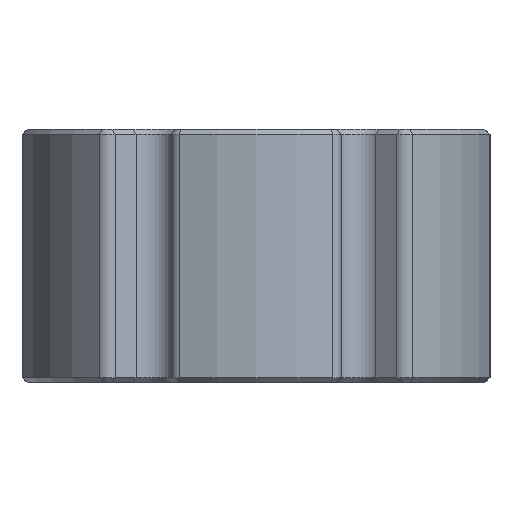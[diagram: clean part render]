
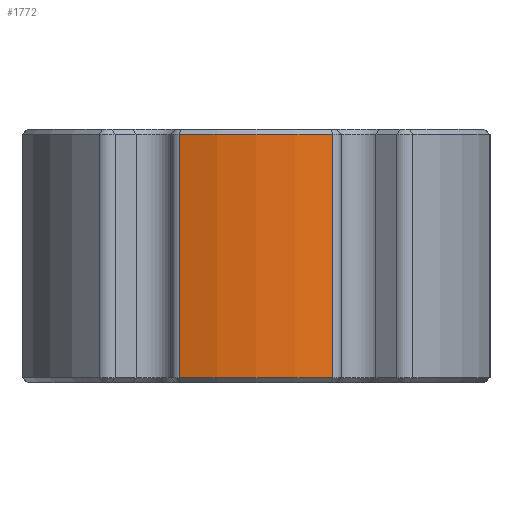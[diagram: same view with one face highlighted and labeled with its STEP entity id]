
A CAD part, left-side view. The second image highlights one B-rep face of the part: STEP entity #1772.
In plain terms, the highlighted cylindrical face has radius 23.877 mm (diameter 47.753 mm), a partial arc.
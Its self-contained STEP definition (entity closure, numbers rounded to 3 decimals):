
#39=CYLINDRICAL_SURFACE('',#1989,23.877);
#91=CIRCLE('',#1816,23.877);
#176=CIRCLE('',#1990,23.877);
#627=ORIENTED_EDGE('',*,*,#938,.T.);
#628=ORIENTED_EDGE('',*,*,#885,.T.);
#629=ORIENTED_EDGE('',*,*,#709,.T.);
#630=ORIENTED_EDGE('',*,*,#888,.T.);
#709=EDGE_CURVE('',#954,#958,#91,.T.);
#885=EDGE_CURVE('',#1039,#954,#1209,.T.);
#888=EDGE_CURVE('',#958,#1048,#1212,.T.);
#938=EDGE_CURVE('',#1048,#1039,#176,.T.);
#954=VERTEX_POINT('',#2617);
#958=VERTEX_POINT('',#2629);
#1039=VERTEX_POINT('',#2853);
#1048=VERTEX_POINT('',#2876);
#1209=LINE('',#2990,#1365);
#1212=LINE('',#2994,#1368);
#1365=VECTOR('',#2410,1000.);
#1368=VECTOR('',#2415,1000.);
#1498=EDGE_LOOP('',(#627,#628,#629,#630));
#1612=FACE_BOUND('',#1498,.T.);
#1772=ADVANCED_FACE('',(#1612),#39,.T.);
#1816=AXIS2_PLACEMENT_3D('',#2630,#2054,#2055);
#1989=AXIS2_PLACEMENT_3D('',#3077,#2544,#2545);
#1990=AXIS2_PLACEMENT_3D('',#3078,#2546,#2547);
#2054=DIRECTION('',(0.,0.,1.));
#2055=DIRECTION('',(1.,0.,0.));
#2410=DIRECTION('',(0.,0.,-1.));
#2415=DIRECTION('',(0.,0.,1.));
#2544=DIRECTION('',(0.,0.,-1.));
#2545=DIRECTION('',(-1.,0.,0.));
#2546=DIRECTION('',(0.,0.,-1.));
#2547=DIRECTION('',(1.,0.,0.));
#2617=CARTESIAN_POINT('',(-22.603,7.695,-12.192));
#2629=CARTESIAN_POINT('',(-22.603,-7.695,-12.192));
#2630=CARTESIAN_POINT('',(0.,0.,-12.192));
#2853=CARTESIAN_POINT('',(-22.603,7.695,12.192));
#2876=CARTESIAN_POINT('',(-22.603,-7.695,12.192));
#2990=CARTESIAN_POINT('',(-22.603,7.695,12.7));
#2994=CARTESIAN_POINT('',(-22.603,-7.695,12.7));
#3077=CARTESIAN_POINT('',(0.,0.,12.7));
#3078=CARTESIAN_POINT('',(0.,0.,12.192));
